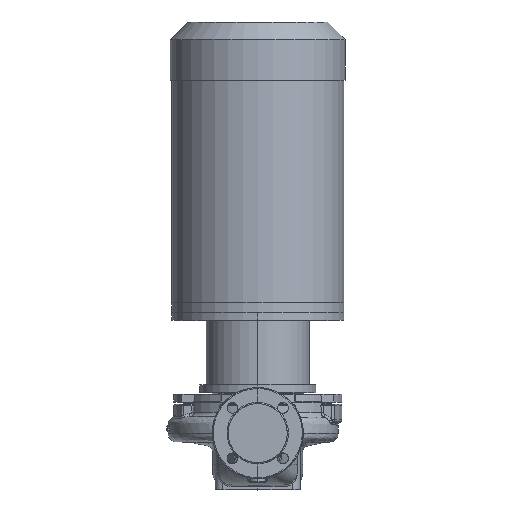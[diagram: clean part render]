
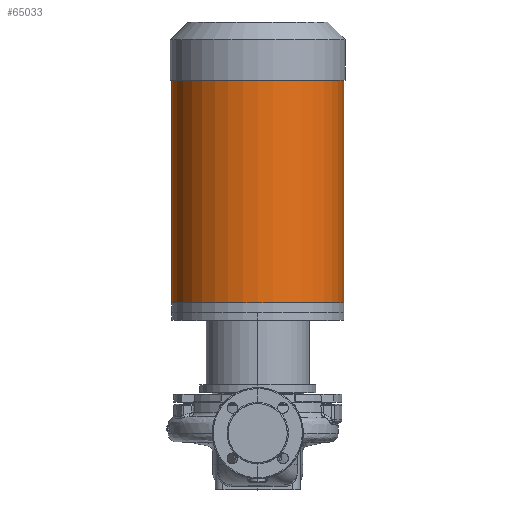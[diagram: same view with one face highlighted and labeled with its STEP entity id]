
A CAD part, top view. The second image highlights one B-rep face of the part: STEP entity #65033.
In plain terms, the highlighted cylindrical face has radius 174.5 mm (diameter 349 mm), a partial arc.
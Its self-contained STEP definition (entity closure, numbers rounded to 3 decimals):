
#2339 = CIRCLE ( 'NONE', #49473, 174.5 ) ;
#11954 = VERTEX_POINT ( 'NONE', #15628 ) ;
#12852 = VERTEX_POINT ( 'NONE', #50507 ) ;
#13366 = DIRECTION ( 'NONE',  ( -1., 0., 0. ) ) ;
#15095 = LINE ( 'NONE', #52038, #32945 ) ;
#15628 = CARTESIAN_POINT ( 'NONE',  ( 174.5, 265.3, 0. ) ) ;
#15650 = ORIENTED_EDGE ( 'NONE', *, *, #67162, .F. ) ;
#17927 = CARTESIAN_POINT ( 'NONE',  ( 0., 265.3, 0. ) ) ;
#18693 = VECTOR ( 'NONE', #25274, 1000. ) ;
#19548 = FACE_OUTER_BOUND ( 'NONE', #40270, .T. ) ;
#19791 = EDGE_CURVE ( 'NONE', #12852, #36568, #48893, .T. ) ;
#20544 = ORIENTED_EDGE ( 'NONE', *, *, #66649, .F. ) ;
#23814 = DIRECTION ( 'NONE',  ( 0., -1., 0. ) ) ;
#24731 = CARTESIAN_POINT ( 'NONE',  ( 0., 717.3, 0. ) ) ;
#25274 = DIRECTION ( 'NONE',  ( 0., -1., 0. ) ) ;
#28641 = AXIS2_PLACEMENT_3D ( 'NONE', #24731, #30618, #41048 ) ;
#30618 = DIRECTION ( 'NONE',  ( 0., -1., 0. ) ) ;
#31429 = AXIS2_PLACEMENT_3D ( 'NONE', #43136, #32226, #37439 ) ;
#32226 = DIRECTION ( 'NONE',  ( 0., -1., 0. ) ) ;
#32945 = VECTOR ( 'NONE', #52265, 1000. ) ;
#35276 = CARTESIAN_POINT ( 'NONE',  ( 174.5, 245.3, 0. ) ) ;
#35432 = ORIENTED_EDGE ( 'NONE', *, *, #40915, .T. ) ;
#36568 = VERTEX_POINT ( 'NONE', #49521 ) ;
#37439 = DIRECTION ( 'NONE',  ( -1., 0., 0. ) ) ;
#39001 = CYLINDRICAL_SURFACE ( 'NONE', #31429, 174.5 ) ;
#40270 = EDGE_LOOP ( 'NONE', ( #20544, #47306, #35432, #15650 ) ) ;
#40915 = EDGE_CURVE ( 'NONE', #36568, #52054, #15095, .T. ) ;
#41048 = DIRECTION ( 'NONE',  ( -1., 0., 0. ) ) ;
#41647 = CARTESIAN_POINT ( 'NONE',  ( -174.5, 265.3, 0. ) ) ;
#43027 = LINE ( 'NONE', #35276, #18693 ) ;
#43136 = CARTESIAN_POINT ( 'NONE',  ( 0., 245.3, 0. ) ) ;
#47306 = ORIENTED_EDGE ( 'NONE', *, *, #19791, .T. ) ;
#48893 = CIRCLE ( 'NONE', #28641, 174.5 ) ;
#49473 = AXIS2_PLACEMENT_3D ( 'NONE', #17927, #23814, #13366 ) ;
#49521 = CARTESIAN_POINT ( 'NONE',  ( -174.5, 717.3, 0. ) ) ;
#50507 = CARTESIAN_POINT ( 'NONE',  ( 174.5, 717.3, 0. ) ) ;
#52038 = CARTESIAN_POINT ( 'NONE',  ( -174.5, 245.3, 0. ) ) ;
#52054 = VERTEX_POINT ( 'NONE', #41647 ) ;
#52265 = DIRECTION ( 'NONE',  ( 0., -1., 0. ) ) ;
#65033 = ADVANCED_FACE ( 'NONE', ( #19548 ), #39001, .T. ) ;
#66649 = EDGE_CURVE ( 'NONE', #12852, #11954, #43027, .T. ) ;
#67162 = EDGE_CURVE ( 'NONE', #11954, #52054, #2339, .T. ) ;
